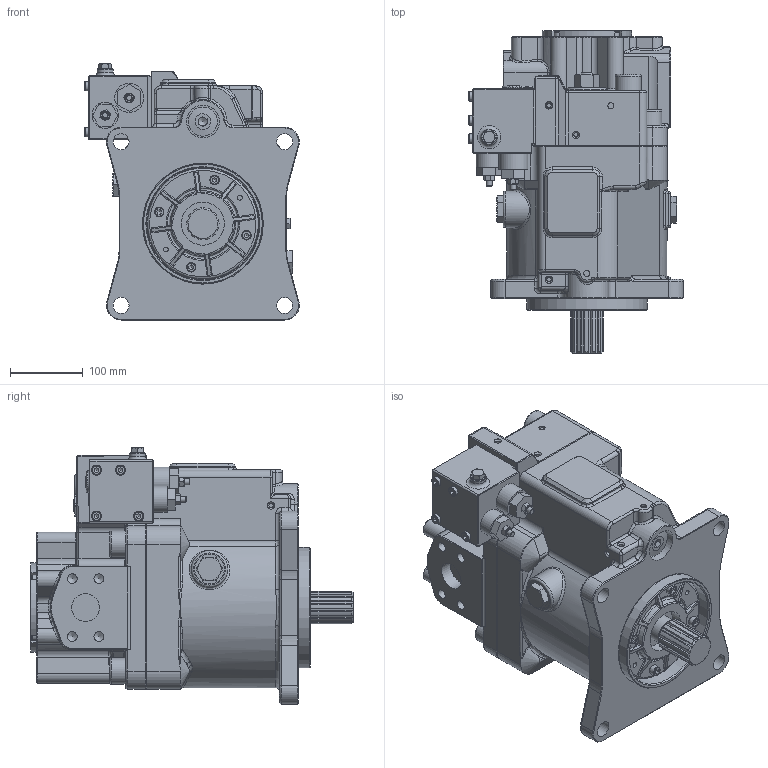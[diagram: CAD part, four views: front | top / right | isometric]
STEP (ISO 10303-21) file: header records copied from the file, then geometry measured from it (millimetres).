
FILE_DESCRIPTION(/* description */ (''),/* implementation_level */ '2;1');
FILE_NAME(/* name */ 'C:\Users\MNORMAN\Desktop\K3VL200B 1ARSM L1.stp',/* time_stamp */ '2015-11-13T09:24:18+00:00',/* author */ ('mnorman'),/* organization */ (''),/* preprocessor_version */ 'ST-DEVELOPER v16.1',/* originating_system */ 'Autodesk Inventor 2016',/* authorisation */ '');
FILE_SCHEMA (('AUTOMOTIVE_DESIGN { 1 0 10303 214 3 1 1 }'));
Products named in the file (1): K3VL200 B 1ARSM L1
Bounding box: 294.2 x 442 x 351.25 mm (x, y, z)
Volume: 18713453.8 mm3; surface area: 694679.7 mm2
Topology: 1 solids, 20 shells, 1538 faces, 3587 edges, 2138 vertices
Faces by surface type: plane 544, cylinder 381, cone 239, torus 192, bspline 175, sphere 7
Full cylindrical faces by diameter (mm): 2 x2, 4.917 x4, 5.917 x5, 6.647 x2, 8 x20, 8.376 x6, 9 x12, 10.106 x8, 13 x12, 13.386 x8, 14 x4, 16 x2, 20 x1, 21 x1, 22 x5, 36 x6, 36.7 x1, 38 x1, 39 x5, 40 x2, 41 x2, 45 x1, 50 x1, 59 x1, 70 x1, 76 x1, 82.55 x1, 90 x1, 122.5 x1, 125 x1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
Entity records: 50712 total; most frequent: CARTESIAN_POINT 16865, DIRECTION 6650, ORIENTED_EDGE 6534, EDGE_CURVE 3267, AXIS2_PLACEMENT_3D 2722, VERTEX_POINT 2062, EDGE_LOOP 1869, FACE_OUTER_BOUND 1538
